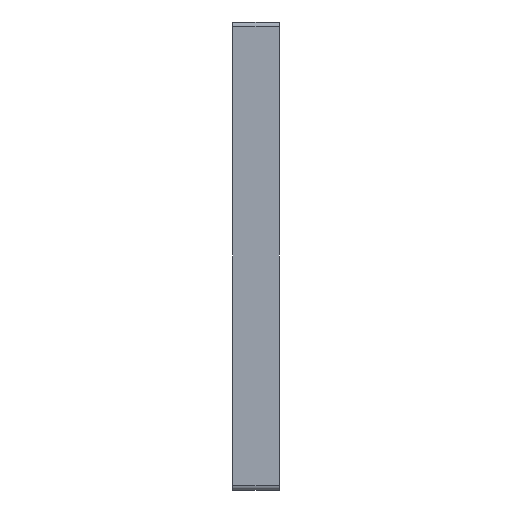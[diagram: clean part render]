
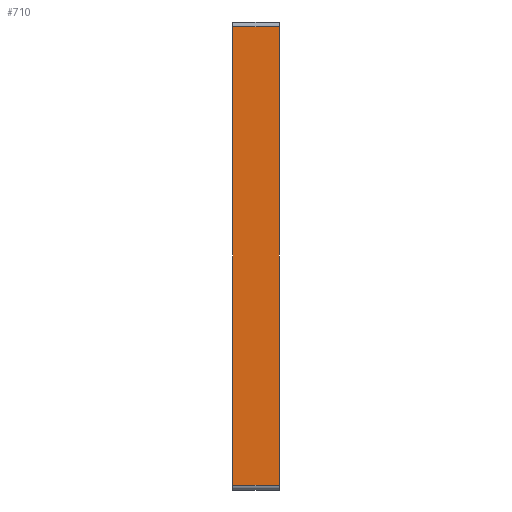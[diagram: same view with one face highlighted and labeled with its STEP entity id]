
A CAD part, left-side view. The second image highlights one B-rep face of the part: STEP entity #710.
In plain terms, the highlighted planar face has unit normal (-1, 0, 0).
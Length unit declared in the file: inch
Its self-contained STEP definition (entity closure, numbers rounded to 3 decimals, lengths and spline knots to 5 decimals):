
#3 = VERTEX_POINT ( 'NONE', #911 ) ;
#19 = PLANE ( 'NONE',  #953 ) ;
#40 = ORIENTED_EDGE ( 'NONE', *, *, #1123, .T. ) ;
#117 = EDGE_CURVE ( 'NONE', #834, #976, #212, .T. ) ;
#123 = FACE_OUTER_BOUND ( 'NONE', #892, .T. ) ;
#131 = DIRECTION ( 'NONE',  ( 1., 0., 0. ) ) ;
#212 = LINE ( 'NONE', #933, #828 ) ;
#241 = CARTESIAN_POINT ( 'NONE',  ( -3., 0.5, -2.5 ) ) ;
#279 = VECTOR ( 'NONE', #921, 39.37008 ) ;
#365 = CARTESIAN_POINT ( 'NONE',  ( -3., 0., -2.5 ) ) ;
#440 = CARTESIAN_POINT ( 'NONE',  ( -3., 0.5, 2.45 ) ) ;
#446 = DIRECTION ( 'NONE',  ( 0., -1., 0. ) ) ;
#467 = DIRECTION ( 'NONE',  ( 0., 0., 1. ) ) ;
#551 = CARTESIAN_POINT ( 'NONE',  ( -3., 0.5, -2.45 ) ) ;
#630 = ORIENTED_EDGE ( 'NONE', *, *, #1045, .T. ) ;
#635 = CARTESIAN_POINT ( 'NONE',  ( -3., 0., 2.45 ) ) ;
#650 = VECTOR ( 'NONE', #1203, 39.37008 ) ;
#702 = VECTOR ( 'NONE', #446, 39.37008 ) ;
#710 = ADVANCED_FACE ( 'NONE', ( #123 ), #19, .F. ) ;
#743 = LINE ( 'NONE', #365, #650 ) ;
#828 = VECTOR ( 'NONE', #467, 39.37008 ) ;
#834 = VERTEX_POINT ( 'NONE', #551 ) ;
#866 = ORIENTED_EDGE ( 'NONE', *, *, #1204, .T. ) ;
#892 = EDGE_LOOP ( 'NONE', ( #1053, #866, #40, #630 ) ) ;
#911 = CARTESIAN_POINT ( 'NONE',  ( -3., 0., -2.45 ) ) ;
#921 = DIRECTION ( 'NONE',  ( 0., 1., 0. ) ) ;
#933 = CARTESIAN_POINT ( 'NONE',  ( -3., 0.5, -2.5 ) ) ;
#953 = AXIS2_PLACEMENT_3D ( 'NONE', #241, #131, #1446 ) ;
#976 = VERTEX_POINT ( 'NONE', #1037 ) ;
#1037 = CARTESIAN_POINT ( 'NONE',  ( -3., 0.5, 2.45 ) ) ;
#1045 = EDGE_CURVE ( 'NONE', #1482, #976, #1509, .T. ) ;
#1053 = ORIENTED_EDGE ( 'NONE', *, *, #117, .F. ) ;
#1123 = EDGE_CURVE ( 'NONE', #3, #1482, #743, .T. ) ;
#1203 = DIRECTION ( 'NONE',  ( 0., 0., 1. ) ) ;
#1204 = EDGE_CURVE ( 'NONE', #834, #3, #1429, .T. ) ;
#1397 = CARTESIAN_POINT ( 'NONE',  ( -3., 0.5, -2.45 ) ) ;
#1429 = LINE ( 'NONE', #1397, #702 ) ;
#1446 = DIRECTION ( 'NONE',  ( 0., 0., -1. ) ) ;
#1482 = VERTEX_POINT ( 'NONE', #635 ) ;
#1509 = LINE ( 'NONE', #440, #279 ) ;
